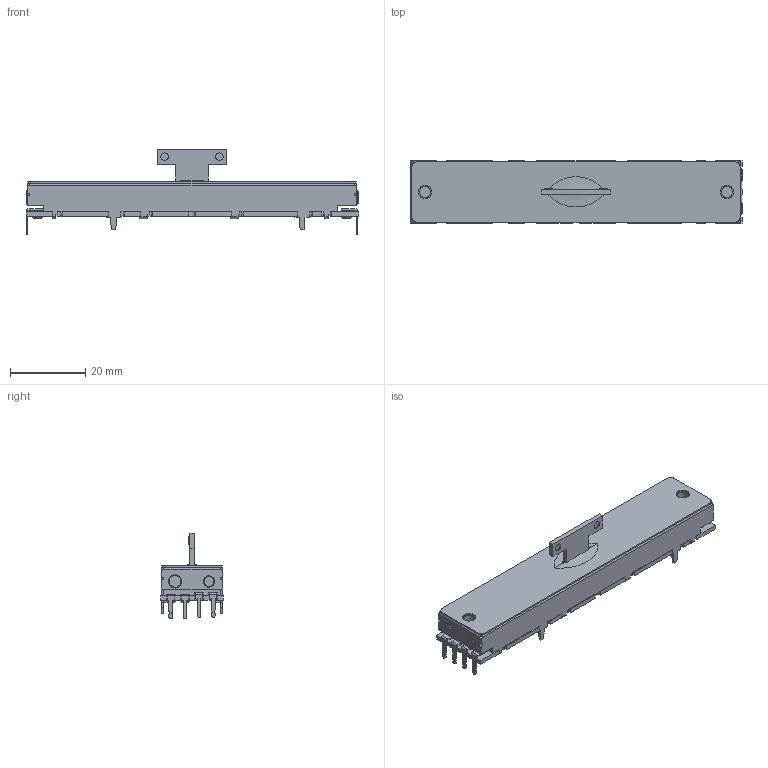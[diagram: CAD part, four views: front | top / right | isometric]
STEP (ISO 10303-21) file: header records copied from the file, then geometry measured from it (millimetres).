
FILE_DESCRIPTION(('FreeCAD Model'),'2;1');
FILE_NAME('Open CASCADE Shape Model','2023-03-16T15:26:10',(''),(''), 'Open CASCADE STEP processor 7.6','FreeCAD','Unknown');
FILE_SCHEMA(('AUTOMOTIVE_DESIGN { 1 0 10303 214 1 1 1 1 }'));
Length unit declared in the file: millimetre
Products named in the file (1): Fusion002011
Bounding box: 88 x 16.5 x 22.7 mm (x, y, z)
Volume: 12679.8 mm3; surface area: 6552.8 mm2
Topology: 1 solids, 4 shells, 626 faces, 1683 edges, 1086 vertices
Faces by surface type: plane 439, cylinder 161, cone 10, extrusion 8, torus 6, revolution 2
Full cylindrical faces by diameter (mm): 0.5 x18, 1.5 x6, 1.7 x8, 2 x4, 3 x4, 3.5 x4
Entity records: 45732 total; most frequent: CARTESIAN_POINT 11139, DIRECTION 5305, ORIENTED_EDGE 3374, PCURVE 3366, DEFINITIONAL_REPRESENTATION 3366, VECTOR 3158, LINE 3150, EDGE_CURVE 1683
